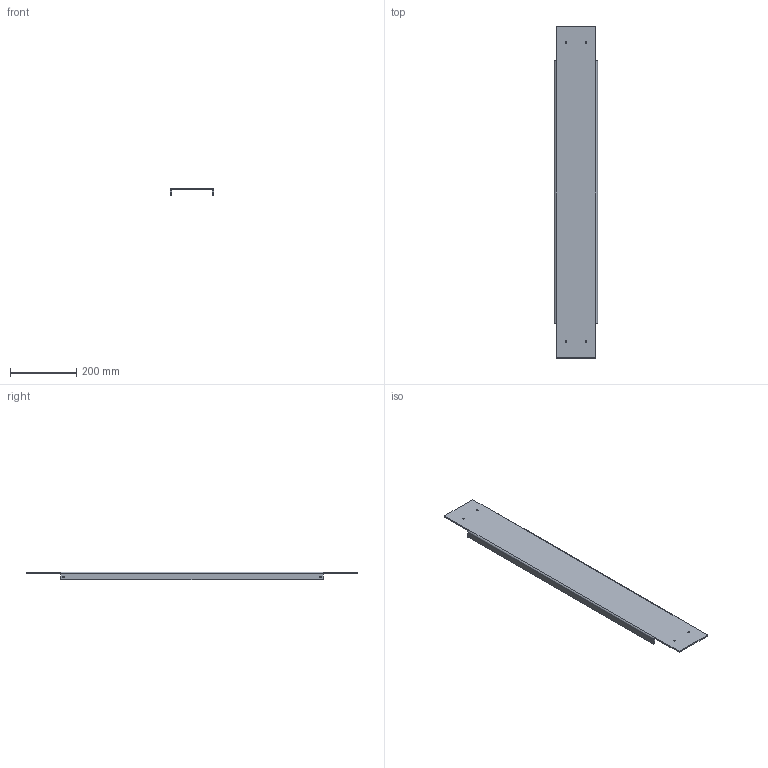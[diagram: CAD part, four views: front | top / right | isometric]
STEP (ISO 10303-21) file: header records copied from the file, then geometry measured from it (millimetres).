
FILE_DESCRIPTION(('HOOPS Exchange Step'),'2;1');
FILE_NAME('/private/var/mobile/Containers/Data/Application/E4481369-A8C6-45C6-A958-B1853E49479D/tmp/export/temp_export','2021-04-12T21:03:12+00:00',('mobile'),('Shapr3D Limited'),'HOOPS Exchange 2020.2','Shapr3D','Authorized');
FILE_SCHEMA( ('AP203_CONFIGURATION_CONTROLLED_3D_DESIGN_OF_MECHANICAL_PARTS_AND_ASSEMBLIES_MIM_LF') );
Length unit declared in the file: millimetre
Products named in the file (2): 0; /private/var/mobile/Containers/Data/Application/E4481369-A8C6-45C6-A958-B1853E49479D/tmp/E3DFFCF9-6BF2-4EF5-988B-88060B417982.tmp
Assembly tree (1 placements, depth 2):
  /private/var/mobile/Containers/Data/Application/E4481369-A8C6-45C6-A958-B1853E49479D/tmp/E3DFFCF9-6BF2-4EF5-988B-88060B417982.tmp
    0
Bounding box: 130 x 1000 x 24 mm (x, y, z)
Volume: 629555.2 mm3; surface area: 324626 mm2
Topology: 1 solids, 1 shells, 38 faces, 112 edges, 76 vertices
Faces by surface type: cylinder 20, plane 18
Full cylindrical faces by diameter (mm): 5.2 x8
Entity records: 1379 total; most frequent: DIRECTION 246, CARTESIAN_POINT 229, ORIENTED_EDGE 224, EDGE_CURVE 112, AXIS2_PLACEMENT_3D 93, VERTEX_POINT 76, VECTOR 60, LINE 60
